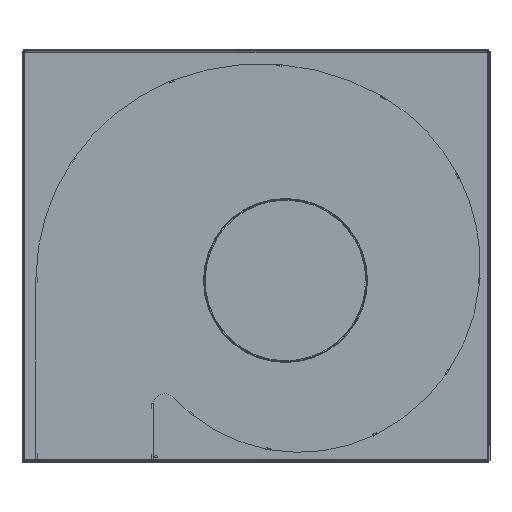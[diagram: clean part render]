
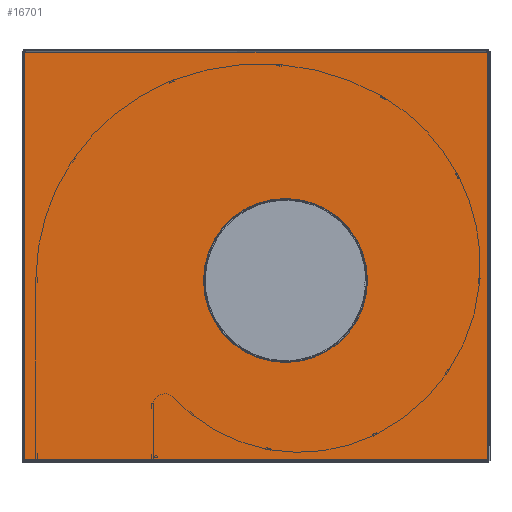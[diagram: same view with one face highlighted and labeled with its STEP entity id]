
A CAD part, top view. The second image highlights one B-rep face of the part: STEP entity #16701.
In plain terms, the highlighted planar face has unit normal (0, 0, 1).
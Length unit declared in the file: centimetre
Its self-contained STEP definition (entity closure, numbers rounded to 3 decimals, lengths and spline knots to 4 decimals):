
#585=FACE_BOUND('',#3109,.T.);
#586=FACE_BOUND('',#3110,.T.);
#587=FACE_BOUND('',#3111,.T.);
#876=CIRCLE('',#17553,10.);
#898=CIRCLE('',#17624,0.25);
#899=CIRCLE('',#17625,0.25);
#900=CIRCLE('',#17626,0.25);
#901=CIRCLE('',#17627,0.25);
#1407=PLANE('',#17623);
#2188=FACE_OUTER_BOUND('',#3108,.T.);
#3108=EDGE_LOOP('',(#14727,#14728,#14729,#14730,#14731,#14732,#14733,#14734));
#3109=EDGE_LOOP('',(#14735,#14736,#14737,#14738));
#3110=EDGE_LOOP('',(#14739,#14740,#14741,#14742));
#3111=EDGE_LOOP('',(#14743));
#3985=LINE('',#29240,#5334);
#3987=LINE('',#29246,#5336);
#4068=LINE('',#29541,#5417);
#4269=LINE('',#30061,#5618);
#4456=LINE('',#30740,#5805);
#4457=LINE('',#30744,#5806);
#4458=LINE('',#30748,#5807);
#4459=LINE('',#30751,#5808);
#4460=LINE('',#30753,#5809);
#4461=LINE('',#30754,#5810);
#4462=LINE('',#30756,#5811);
#4463=LINE('',#30757,#5812);
#5334=VECTOR('',#19098,0.025);
#5336=VECTOR('',#19102,0.025);
#5417=VECTOR('',#19343,0.0786);
#5618=VECTOR('',#19804,0.0786);
#5805=VECTOR('',#20503,56.472);
#5806=VECTOR('',#20506,49.672);
#5807=VECTOR('',#20509,56.472);
#5808=VECTOR('',#20512,49.672);
#5809=VECTOR('',#20513,0.025);
#5810=VECTOR('',#20514,0.0786);
#5811=VECTOR('',#20515,0.0786);
#5812=VECTOR('',#20516,0.025);
#7603=VERTEX_POINT('',#29234);
#7605=VERTEX_POINT('',#29238);
#7606=VERTEX_POINT('',#29242);
#7608=VERTEX_POINT('',#29245);
#7742=VERTEX_POINT('',#29540);
#7931=VERTEX_POINT('',#30059);
#8068=VERTEX_POINT('',#30584);
#8095=VERTEX_POINT('',#30736);
#8096=VERTEX_POINT('',#30737);
#8097=VERTEX_POINT('',#30739);
#8098=VERTEX_POINT('',#30741);
#8099=VERTEX_POINT('',#30743);
#8100=VERTEX_POINT('',#30745);
#8101=VERTEX_POINT('',#30747);
#8102=VERTEX_POINT('',#30749);
#8103=VERTEX_POINT('',#30752);
#8104=VERTEX_POINT('',#30755);
#9687=EDGE_CURVE('',#7605,#7603,#3985,.T.);
#9689=EDGE_CURVE('',#7606,#7608,#3987,.T.);
#9830=EDGE_CURVE('',#7603,#7742,#4068,.T.);
#10103=EDGE_CURVE('',#7931,#7606,#4269,.T.);
#10335=EDGE_CURVE('',#8068,#8068,#876,.T.);
#10411=EDGE_CURVE('',#8095,#8096,#898,.T.);
#10412=EDGE_CURVE('',#8096,#8097,#4456,.T.);
#10413=EDGE_CURVE('',#8097,#8098,#899,.T.);
#10414=EDGE_CURVE('',#8098,#8099,#4457,.T.);
#10415=EDGE_CURVE('',#8099,#8100,#900,.T.);
#10416=EDGE_CURVE('',#8100,#8101,#4458,.T.);
#10417=EDGE_CURVE('',#8101,#8102,#901,.T.);
#10418=EDGE_CURVE('',#8102,#8095,#4459,.T.);
#10419=EDGE_CURVE('',#7931,#8103,#4460,.T.);
#10420=EDGE_CURVE('',#8103,#7608,#4461,.T.);
#10421=EDGE_CURVE('',#7605,#8104,#4462,.T.);
#10422=EDGE_CURVE('',#8104,#7742,#4463,.T.);
#14727=ORIENTED_EDGE('',*,*,#10411,.T.);
#14728=ORIENTED_EDGE('',*,*,#10412,.T.);
#14729=ORIENTED_EDGE('',*,*,#10413,.T.);
#14730=ORIENTED_EDGE('',*,*,#10414,.T.);
#14731=ORIENTED_EDGE('',*,*,#10415,.T.);
#14732=ORIENTED_EDGE('',*,*,#10416,.T.);
#14733=ORIENTED_EDGE('',*,*,#10417,.T.);
#14734=ORIENTED_EDGE('',*,*,#10418,.T.);
#14735=ORIENTED_EDGE('',*,*,#10103,.F.);
#14736=ORIENTED_EDGE('',*,*,#10419,.T.);
#14737=ORIENTED_EDGE('',*,*,#10420,.T.);
#14738=ORIENTED_EDGE('',*,*,#9689,.F.);
#14739=ORIENTED_EDGE('',*,*,#9687,.F.);
#14740=ORIENTED_EDGE('',*,*,#10421,.T.);
#14741=ORIENTED_EDGE('',*,*,#10422,.T.);
#14742=ORIENTED_EDGE('',*,*,#9830,.F.);
#14743=ORIENTED_EDGE('',*,*,#10335,.T.);
#16701=ADVANCED_FACE('',(#2188,#585,#586,#587),#1407,.T.);
#17553=AXIS2_PLACEMENT_3D('',#30585,#20305,#20306);
#17623=AXIS2_PLACEMENT_3D('',#30735,#20499,#20500);
#17624=AXIS2_PLACEMENT_3D('',#30738,#20501,#20502);
#17625=AXIS2_PLACEMENT_3D('',#30742,#20504,#20505);
#17626=AXIS2_PLACEMENT_3D('',#30746,#20507,#20508);
#17627=AXIS2_PLACEMENT_3D('',#30750,#20510,#20511);
#19098=DIRECTION('',(-1.,0.,0.));
#19102=DIRECTION('',(-1.,0.,0.));
#19343=DIRECTION('',(0.,-1.,0.));
#19804=DIRECTION('',(0.,1.,0.));
#20305=DIRECTION('center_axis',(0.,0.,-1.));
#20306=DIRECTION('ref_axis',(-1.,0.,0.));
#20499=DIRECTION('center_axis',(0.,0.,
1.));
#20500=DIRECTION('ref_axis',(-1.,0.,0.));
#20501=DIRECTION('center_axis',(0.,0.,-1.));
#20502=DIRECTION('ref_axis',(1.,0.,0.));
#20503=DIRECTION('',(-1.,0.,0.));
#20504=DIRECTION('center_axis',(0.,0.,-1.));
#20505=DIRECTION('ref_axis',(1.,0.,0.));
#20506=DIRECTION('',(0.,-1.,0.));
#20507=DIRECTION('center_axis',(0.,0.,-1.));
#20508=DIRECTION('ref_axis',(1.,0.,0.));
#20509=DIRECTION('',(1.,0.,0.));
#20510=DIRECTION('center_axis',(0.,0.,-1.));
#20511=DIRECTION('ref_axis',(1.,0.,0.));
#20512=DIRECTION('',(0.,1.,0.));
#20513=DIRECTION('',(-1.,0.,0.));
#20514=DIRECTION('',(0.,1.,0.));
#20515=DIRECTION('',(0.,-1.,0.));
#20516=DIRECTION('',(-1.,0.,0.));
#29234=CARTESIAN_POINT('',(39.1871,86.6194,0.15));
#29238=CARTESIAN_POINT('',(39.2121,86.6194,0.15));
#29240=CARTESIAN_POINT('',(79.9397,86.6194,0.15));
#29242=CARTESIAN_POINT('',(39.0371,86.6194,0.15));
#29245=CARTESIAN_POINT('',(39.0121,86.6194,0.15));
#29246=CARTESIAN_POINT('',(79.9397,86.6194,0.15));
#29540=CARTESIAN_POINT('',(39.1871,86.5408,0.15));
#29541=CARTESIAN_POINT('',(39.1871,86.5291,0.15));
#30059=CARTESIAN_POINT('',(39.0371,86.5408,0.15));
#30061=CARTESIAN_POINT('',(39.0371,93.1091,0.15));
#30584=CARTESIAN_POINT('',(65.3371,108.3791,0.15));
#30585=CARTESIAN_POINT('Origin',(55.3371,108.3791,0.15));
#30735=CARTESIAN_POINT('Origin',(39.1121,92.9841,0.15));
#30736=CARTESIAN_POINT('',(79.9871,136.2151,0.15));
#30737=CARTESIAN_POINT('',(79.9731,136.2291,0.15));
#30738=CARTESIAN_POINT('Origin',(80.1568,136.3987,0.15));
#30739=CARTESIAN_POINT('',(23.5011,136.2291,0.15));
#30740=CARTESIAN_POINT('',(65.8621,136.2291,0.15));
#30741=CARTESIAN_POINT('',(23.4871,136.2151,0.15));
#30742=CARTESIAN_POINT('Origin',(23.3175,136.3987,0.15));
#30743=CARTESIAN_POINT('',(23.4871,86.5431,0.15));
#30744=CARTESIAN_POINT('',(23.4871,123.8041,0.15));
#30745=CARTESIAN_POINT('',(23.5011,86.5291,0.15));
#30746=CARTESIAN_POINT('Origin',(23.3175,86.3594,0.15));
#30747=CARTESIAN_POINT('',(79.9731,86.5291,0.15));
#30748=CARTESIAN_POINT('',(37.5371,86.5291,0.15));
#30749=CARTESIAN_POINT('',(79.9871,86.5431,0.15));
#30750=CARTESIAN_POINT('Origin',(80.1568,86.3594,0.15));
#30751=CARTESIAN_POINT('',(79.9871,98.8791,0.15));
#30752=CARTESIAN_POINT('',(39.0121,86.5408,0.15));
#30753=CARTESIAN_POINT('',(45.4746,86.5408,0.15));
#30754=CARTESIAN_POINT('',(39.0121,98.9599,0.15));
#30755=CARTESIAN_POINT('',(39.2121,86.5408,0.15));
#30756=CARTESIAN_POINT('',(39.2121,99.2349,0.15));
#30757=CARTESIAN_POINT('',(45.4746,86.5408,0.15));
